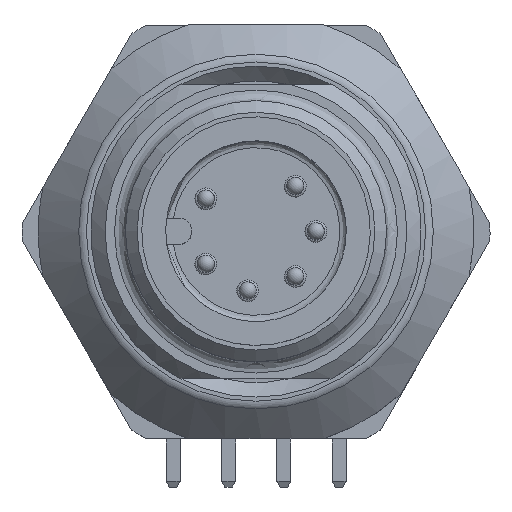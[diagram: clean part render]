
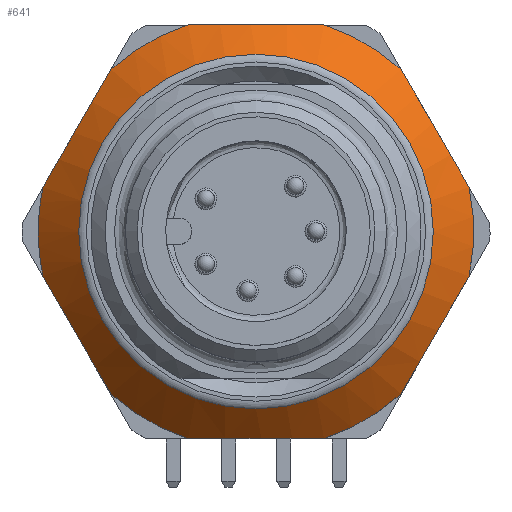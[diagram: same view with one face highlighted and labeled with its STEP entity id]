
A CAD part, top view. The second image highlights one B-rep face of the part: STEP entity #641.
In plain terms, the highlighted conical face has half-angle 45 degrees and reference radius 9.073 mm.
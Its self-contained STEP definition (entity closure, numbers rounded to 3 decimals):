
#227=CARTESIAN_POINT('',(-9.788,-2.046,-2.75));
#228=VERTEX_POINT('',#227);
#243=CARTESIAN_POINT('',(-6.666,-7.454,-2.75));
#244=VERTEX_POINT('',#243);
#251=CARTESIAN_POINT('',(-9.788,-2.046,-2.75));
#252=CARTESIAN_POINT('',(-8.227,-4.75,-1.775));
#253=CARTESIAN_POINT('',(-6.666,-7.454,-2.75));
#261=(BOUNDED_CURVE()B_SPLINE_CURVE(2,(#251,#252,#253),.UNSPECIFIED.,.F.,.U.)B_SPLINE_CURVE_WITH_KNOTS((3,3),(0.0,0.632),.UNSPECIFIED.)CURVE()GEOMETRIC_REPRESENTATION_ITEM()RATIONAL_B_SPLINE_CURVE((1.0,1.053,1.0))REPRESENTATION_ITEM(''));
#262=EDGE_CURVE('',#228,#244,#261,.T.);
#272=CARTESIAN_POINT('',(-9.788,2.046,-2.75));
#273=VERTEX_POINT('',#272);
#282=CARTESIAN_POINT('',(-6.666,7.454,-2.75));
#283=VERTEX_POINT('',#282);
#284=CARTESIAN_POINT('',(-6.666,7.454,-2.75));
#285=CARTESIAN_POINT('',(-8.227,4.75,-1.775));
#286=CARTESIAN_POINT('',(-9.788,2.046,-2.75));
#294=(BOUNDED_CURVE()B_SPLINE_CURVE(2,(#284,#285,#286),.UNSPECIFIED.,.F.,.U.)B_SPLINE_CURVE_WITH_KNOTS((3,3),(0.0,0.632),.UNSPECIFIED.)CURVE()GEOMETRIC_REPRESENTATION_ITEM()RATIONAL_B_SPLINE_CURVE((1.0,1.053,1.0))REPRESENTATION_ITEM(''));
#295=EDGE_CURVE('',#283,#273,#294,.T.);
#319=CARTESIAN_POINT('',(-3.122,9.5,-2.75));
#320=VERTEX_POINT('',#319);
#329=CARTESIAN_POINT('',(3.122,9.5,-2.75));
#330=VERTEX_POINT('',#329);
#331=CARTESIAN_POINT('',(3.122,9.5,-2.75));
#332=CARTESIAN_POINT('',(0.0,9.5,-1.775));
#333=CARTESIAN_POINT('',(-3.122,9.5,-2.75));
#341=(BOUNDED_CURVE()B_SPLINE_CURVE(2,(#331,#332,#333),.UNSPECIFIED.,.F.,.U.)B_SPLINE_CURVE_WITH_KNOTS((3,3),(0.0,0.632),.UNSPECIFIED.)CURVE()GEOMETRIC_REPRESENTATION_ITEM()RATIONAL_B_SPLINE_CURVE((1.0,1.053,1.0))REPRESENTATION_ITEM(''));
#342=EDGE_CURVE('',#330,#320,#341,.T.);
#366=CARTESIAN_POINT('',(6.666,7.454,-2.75));
#367=VERTEX_POINT('',#366);
#376=CARTESIAN_POINT('',(9.788,2.046,-2.75));
#377=VERTEX_POINT('',#376);
#378=CARTESIAN_POINT('',(9.788,2.046,-2.75));
#379=CARTESIAN_POINT('',(8.227,4.75,-1.775));
#380=CARTESIAN_POINT('',(6.666,7.454,-2.75));
#388=(BOUNDED_CURVE()B_SPLINE_CURVE(2,(#378,#379,#380),.UNSPECIFIED.,.F.,.U.)B_SPLINE_CURVE_WITH_KNOTS((3,3),(0.0,0.632),.UNSPECIFIED.)CURVE()GEOMETRIC_REPRESENTATION_ITEM()RATIONAL_B_SPLINE_CURVE((1.0,1.053,1.0))REPRESENTATION_ITEM(''));
#389=EDGE_CURVE('',#377,#367,#388,.T.);
#413=CARTESIAN_POINT('',(9.788,-2.046,-2.75));
#414=VERTEX_POINT('',#413);
#423=CARTESIAN_POINT('',(6.666,-7.454,-2.75));
#424=VERTEX_POINT('',#423);
#425=CARTESIAN_POINT('',(6.666,-7.454,-2.75));
#426=CARTESIAN_POINT('',(8.227,-4.75,-1.775));
#427=CARTESIAN_POINT('',(9.788,-2.046,-2.75));
#435=(BOUNDED_CURVE()B_SPLINE_CURVE(2,(#425,#426,#427),.UNSPECIFIED.,.F.,.U.)B_SPLINE_CURVE_WITH_KNOTS((3,3),(0.0,0.632),.UNSPECIFIED.)CURVE()GEOMETRIC_REPRESENTATION_ITEM()RATIONAL_B_SPLINE_CURVE((1.0,1.053,1.0))REPRESENTATION_ITEM(''));
#436=EDGE_CURVE('',#424,#414,#435,.T.);
#461=CARTESIAN_POINT('',(3.122,-9.5,-2.75));
#462=VERTEX_POINT('',#461);
#463=CARTESIAN_POINT('',(0.0,0.,-2.75));
#464=DIRECTION('',(0.0,0.0,1.0));
#465=DIRECTION('',(-1.0,0.0,0.0));
#466=AXIS2_PLACEMENT_3D('',#463,#464,#465);
#467=CIRCLE('',#466,10.0);
#468=EDGE_CURVE('',#462,#424,#467,.T.);
#494=CARTESIAN_POINT('',(0.0,0.,-2.75));
#495=DIRECTION('',(0.0,0.0,1.0));
#496=DIRECTION('',(-1.0,0.0,0.0));
#497=AXIS2_PLACEMENT_3D('',#494,#495,#496);
#498=CIRCLE('',#497,10.0);
#499=EDGE_CURVE('',#414,#377,#498,.T.);
#518=CARTESIAN_POINT('',(0.0,0.,-2.75));
#519=DIRECTION('',(0.0,0.0,1.0));
#520=DIRECTION('',(-1.0,0.0,0.0));
#521=AXIS2_PLACEMENT_3D('',#518,#519,#520);
#522=CIRCLE('',#521,10.0);
#523=EDGE_CURVE('',#367,#330,#522,.T.);
#542=CARTESIAN_POINT('',(0.0,0.,-2.75));
#543=DIRECTION('',(0.0,0.0,1.0));
#544=DIRECTION('',(-1.0,0.0,0.0));
#545=AXIS2_PLACEMENT_3D('',#542,#543,#544);
#546=CIRCLE('',#545,10.0);
#547=EDGE_CURVE('',#320,#283,#546,.T.);
#575=CARTESIAN_POINT('',(-3.122,-9.5,-2.75));
#576=VERTEX_POINT('',#575);
#583=CARTESIAN_POINT('',(0.0,0.,-2.75));
#584=DIRECTION('',(0.0,0.0,1.0));
#585=DIRECTION('',(-1.0,0.0,0.0));
#586=AXIS2_PLACEMENT_3D('',#583,#584,#585);
#587=CIRCLE('',#586,10.0);
#588=EDGE_CURVE('',#244,#576,#587,.T.);
#593=CARTESIAN_POINT('',(0.0,0.,-1.823));
#594=DIRECTION('',(0.,0.,-1.0));
#595=DIRECTION('',(-1.0,0.0,0.0));
#596=AXIS2_PLACEMENT_3D('',#593,#594,#595);
#597=CONICAL_SURFACE('',#596,9.073,45.);
#598=CARTESIAN_POINT('',(-8.146,0.,-0.896));
#599=VERTEX_POINT('',#598);
#600=CARTESIAN_POINT('',(0.0,0.,-0.896));
#601=DIRECTION('',(0.0,0.0,1.0));
#602=DIRECTION('',(-1.0,0.0,0.0));
#603=AXIS2_PLACEMENT_3D('',#600,#601,#602);
#604=CIRCLE('',#603,8.146);
#605=EDGE_CURVE('',#599,#599,#604,.T.);
#606=ORIENTED_EDGE('',*,*,#605,.F.);
#607=EDGE_LOOP('',(#606));
#608=FACE_OUTER_BOUND('',#607,.T.);
#609=ORIENTED_EDGE('',*,*,#262,.T.);
#610=ORIENTED_EDGE('',*,*,#588,.T.);
#611=CARTESIAN_POINT('',(-3.122,-9.5,-2.75));
#612=CARTESIAN_POINT('',(0.,-9.5,-1.775));
#613=CARTESIAN_POINT('',(3.122,-9.5,-2.75));
#621=(BOUNDED_CURVE()B_SPLINE_CURVE(2,(#611,#612,#613),.UNSPECIFIED.,.F.,.U.)B_SPLINE_CURVE_WITH_KNOTS((3,3),(0.0,0.632),.UNSPECIFIED.)CURVE()GEOMETRIC_REPRESENTATION_ITEM()RATIONAL_B_SPLINE_CURVE((1.0,1.053,1.0))REPRESENTATION_ITEM(''));
#622=EDGE_CURVE('',#576,#462,#621,.T.);
#623=ORIENTED_EDGE('',*,*,#622,.T.);
#624=ORIENTED_EDGE('',*,*,#468,.T.);
#625=ORIENTED_EDGE('',*,*,#436,.T.);
#626=ORIENTED_EDGE('',*,*,#499,.T.);
#627=ORIENTED_EDGE('',*,*,#389,.T.);
#628=ORIENTED_EDGE('',*,*,#523,.T.);
#629=ORIENTED_EDGE('',*,*,#342,.T.);
#630=ORIENTED_EDGE('',*,*,#547,.T.);
#631=ORIENTED_EDGE('',*,*,#295,.T.);
#632=CARTESIAN_POINT('',(0.0,0.,-2.75));
#633=DIRECTION('',(0.0,0.0,1.0));
#634=DIRECTION('',(-1.0,0.0,0.0));
#635=AXIS2_PLACEMENT_3D('',#632,#633,#634);
#636=CIRCLE('',#635,10.0);
#637=EDGE_CURVE('',#273,#228,#636,.T.);
#638=ORIENTED_EDGE('',*,*,#637,.T.);
#639=EDGE_LOOP('',(#609,#610,#623,#624,#625,#626,#627,#628,#629,#630,#631,#638));
#640=FACE_BOUND('',#639,.T.);
#641=ADVANCED_FACE('',(#608,#640),#597,.T.);
